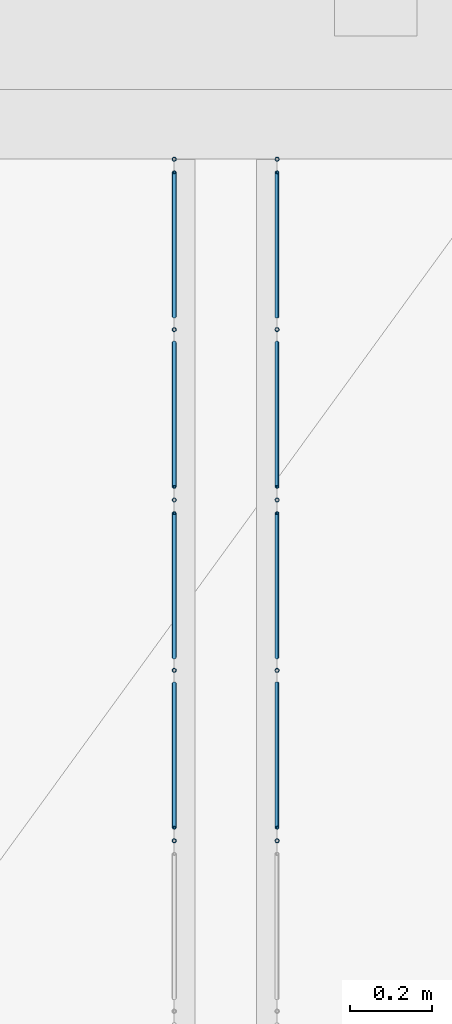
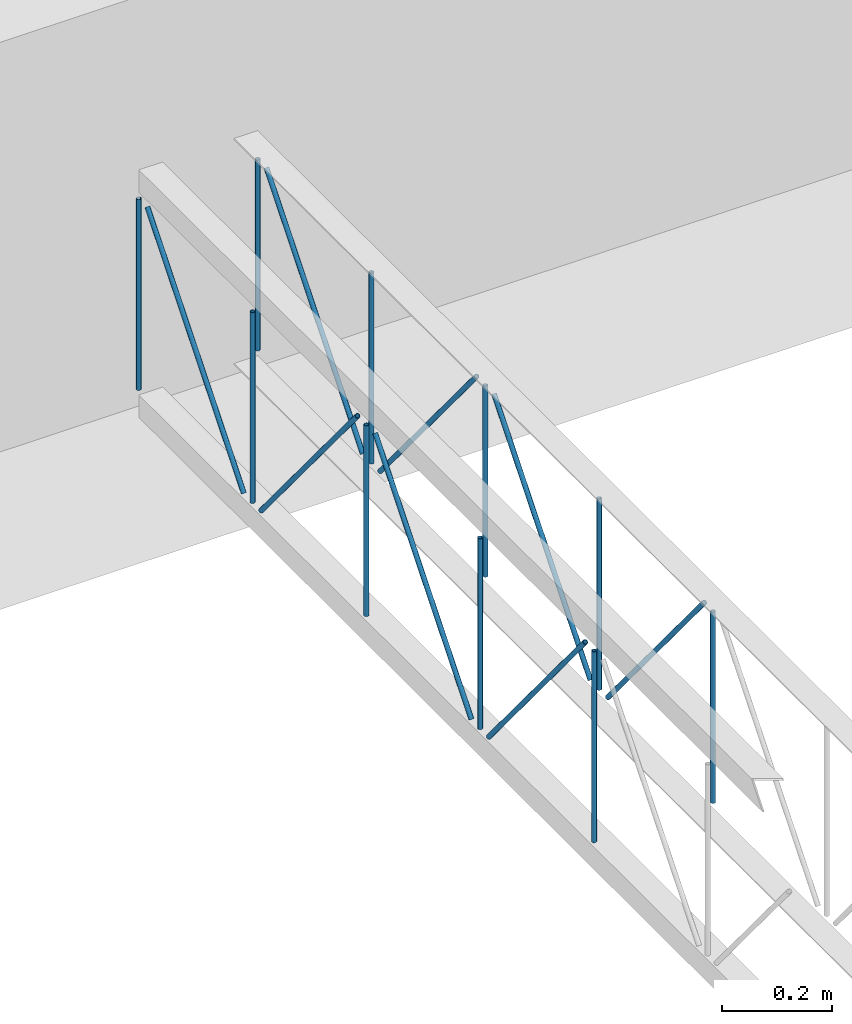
# One storey, part 31 of 153: 18 members, 2 elements without a shape of their own.
"""IFC4 building model written with IfcOpenShell, lengths in metres."""

from ifc_helpers import new_model, entity, si_unit, converted_unit, derived_unit, direction, frame, origin, place, context, subcontext, project, spatial, arc, indexed_curve, outline, extrude, source, transform, mapped, material, type_object, type_shapes, element, aggregate, save


model = new_model("IFC4")

# Units and contexts
model_context = context("Model", 3, precision=1e-05, world=origin(), true_north=direction((6.123031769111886e-17, 1.0)))
body_context = subcontext(model_context, "Body", "Model", "MODEL_VIEW")
ifc_project = project(units=[si_unit("LENGTHUNIT", "METRE"), si_unit("AREAUNIT", "SQUARE_METRE"), si_unit("VOLUMEUNIT", "CUBIC_METRE"), converted_unit("PLANEANGLEUNIT", "DEGREE", entity("IfcRatioMeasure", 0.017453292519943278), si_unit("PLANEANGLEUNIT", "RADIAN"), dimensions=[0, 0, 0, 0, 0, 0, 0]), si_unit("MASSUNIT", "GRAM", prefix="KILO"), derived_unit("MASSDENSITYUNIT", [(si_unit("MASSUNIT", "GRAM", prefix="KILO"), 1), (si_unit("LENGTHUNIT", "METRE"), -3)]), derived_unit("MOMENTOFINERTIAUNIT", [(si_unit("LENGTHUNIT", "METRE"), 4)]), si_unit("TIMEUNIT", "SECOND"), si_unit("FREQUENCYUNIT", "HERTZ"), si_unit("THERMODYNAMICTEMPERATUREUNIT", "DEGREE_CELSIUS"), derived_unit("THERMALTRANSMITTANCEUNIT", [(si_unit("MASSUNIT", "GRAM", prefix="KILO"), 1), (si_unit("THERMODYNAMICTEMPERATUREUNIT", "KELVIN"), -1), (si_unit("TIMEUNIT", "SECOND"), -3)]), derived_unit("VOLUMETRICFLOWRATEUNIT", [(si_unit("LENGTHUNIT", "METRE"), 3), (si_unit("TIMEUNIT", "SECOND"), -1)]), derived_unit("MASSFLOWRATEUNIT", [(si_unit("MASSUNIT", "GRAM", prefix="KILO"), 1), (si_unit("TIMEUNIT", "SECOND"), -1)]), derived_unit("ROTATIONALFREQUENCYUNIT", [(si_unit("TIMEUNIT", "SECOND"), -1)]), si_unit("ELECTRICCURRENTUNIT", "AMPERE"), si_unit("ELECTRICVOLTAGEUNIT", "VOLT"), si_unit("POWERUNIT", "WATT"), si_unit("FORCEUNIT", "NEWTON", prefix="KILO"), si_unit("ILLUMINANCEUNIT", "LUX"), si_unit("LUMINOUSFLUXUNIT", "LUMEN"), si_unit("LUMINOUSINTENSITYUNIT", "CANDELA"), derived_unit("USERDEFINED", [(si_unit("MASSUNIT", "GRAM", prefix="KILO"), -1), (si_unit("LENGTHUNIT", "METRE"), -2), (si_unit("TIMEUNIT", "SECOND"), 3), (si_unit("LUMINOUSFLUXUNIT", "LUMEN"), 1)]), derived_unit("SOUNDPOWERUNIT", [(si_unit("MASSUNIT", "GRAM", prefix="KILO"), 1), (si_unit("LENGTHUNIT", "METRE"), 2), (si_unit("TIMEUNIT", "SECOND"), -3)]), derived_unit("SOUNDPRESSUREUNIT", [(si_unit("MASSUNIT", "GRAM", prefix="KILO"), 1), (si_unit("LENGTHUNIT", "METRE"), -1), (si_unit("TIMEUNIT", "SECOND"), -2)]), derived_unit("LINEARVELOCITYUNIT", [(si_unit("LENGTHUNIT", "METRE"), 1), (si_unit("TIMEUNIT", "SECOND"), -1)]), si_unit("PRESSUREUNIT", "PASCAL"), derived_unit("USERDEFINED", [(si_unit("LENGTHUNIT", "METRE"), -2), (si_unit("MASSUNIT", "GRAM", prefix="KILO"), 1), (si_unit("TIMEUNIT", "SECOND"), -2)]), derived_unit("LINEARFORCEUNIT", [(si_unit("MASSUNIT", "GRAM", prefix="KILO"), 1), (si_unit("LENGTHUNIT", "METRE"), 1), (si_unit("TIMEUNIT", "SECOND"), -2), (si_unit("LENGTHUNIT", "METRE"), -1)]), derived_unit("PLANARFORCEUNIT", [(si_unit("MASSUNIT", "GRAM", prefix="KILO"), 1), (si_unit("LENGTHUNIT", "METRE"), 1), (si_unit("TIMEUNIT", "SECOND"), -2), (si_unit("LENGTHUNIT", "METRE"), -2)])], contexts=[model_context])

# Site, building, storey
site_placement = place(None, origin())
site = spatial("IfcSite", under=ifc_project, at=site_placement, Name="Superficie", CompositionType="ELEMENT")
building_placement = place(site_placement, origin())
building = spatial("IfcBuilding", under=site, at=building_placement, CompositionType="ELEMENT")
storey_placement = place(building_placement, frame((0.0, 0.0, 3.5999999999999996)))
storey = spatial("IfcBuildingStorey", under=building, at=storey_placement, Name="Nivel 1", CompositionType="ELEMENT", Elevation=3.5999999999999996)

# Assembly, members
assembly_1_placement = place(storey_placement, origin())
assembly_1 = element("IfcElementAssembly", 1, at=assembly_1_placement, inside=storey, Name="Viga de celosia 13:Viga de celosia 13", ObjectType="Viga de celosia 13:Viga de celosia 13", AssemblyPlace="NOTDEFINED", PredefinedType="TRUSS")
ifc_material = material(Name="Metal - Calibre delgado", Category="Metal")
member_type_1 = type_object("IfcMemberType", Name="HSS-Tubo estructural redondo:HSS 0.01", PredefinedType="BRACE", material=ifc_material)
shared_shape_1 = source(origin(), body_context, "Body", "SweptSolid", [
    extrude(outline(indexed_curve([(-0.005000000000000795, 7.502054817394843e-18), (-9.800269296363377e-18, -0.005000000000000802), (0.005000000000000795, -7.502054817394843e-18), (8.07772287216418e-18, 0.005000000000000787)], segments=[arc(1, 2, 3), arc(3, 4, 1)], self_intersect=False), holes=[indexed_curve([(0.003999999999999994, 7.222511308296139e-17), (6.910645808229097e-17, -0.004000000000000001), (-0.003999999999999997, -1.8650054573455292e-17), (-2.9156497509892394e-17, 0.003999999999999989)], segments=[arc(1, 2, 3), arc(3, 4, 1)], self_intersect=False)]), frame((-0.21200000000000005, 0.0, 0.0), z_axis=(1.0, 0.0, 0.0), x_axis=(0.0, 1.0, 0.0)), (0.0, 0.0, 1.0), 0.4240000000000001),
])
type_shapes(member_type_1, [shared_shape_1])
member_1_placement = place(assembly_1_placement, frame((-18.70320098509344, -4.990991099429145, 0.25), z_axis=(0.0, 1.0, 0.0), x_axis=(0.0, 0.0, 1.0)))
member_1 = element("IfcMember", 2, at=member_1_placement, type_object=member_type_1, material=ifc_material, Name="HSS-Tubo estructural redondo:HSS 0.01", ObjectType="HSS-Tubo estructural redondo:HSS 0.01", PredefinedType="BRACE", context=body_context, shape_type="MappedRepresentation", body=[
    mapped(shared_shape_1, transform((0.0, 0.0, 0.0), scale=1.0)),
])
member_2_placement = place(assembly_1_placement, frame((-18.70320098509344, -4.576645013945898, 0.25), z_axis=(0.0, 1.0, 0.0), x_axis=(0.0, 0.0, 1.0)))
member_2 = element("IfcMember", 3, at=member_2_placement, type_object=member_type_1, material=ifc_material, Name="HSS-Tubo estructural redondo:HSS 0.01", ObjectType="HSS-Tubo estructural redondo:HSS 0.01", PredefinedType="BRACE", context=body_context, shape_type="MappedRepresentation", body=[
    mapped(shared_shape_1, transform((0.0, 0.0, 0.0), scale=1.0)),
])
member_3_placement = place(assembly_1_placement, frame((-18.703200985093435, -4.162298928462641, 0.25), z_axis=(0.0, 1.0, 0.0), x_axis=(0.0, 0.0, 1.0)))
member_3 = element("IfcMember", 4, at=member_3_placement, type_object=member_type_1, material=ifc_material, Name="HSS-Tubo estructural redondo:HSS 0.01", ObjectType="HSS-Tubo estructural redondo:HSS 0.01", PredefinedType="BRACE", context=body_context, shape_type="MappedRepresentation", body=[
    mapped(shared_shape_1, transform((0.0, 0.0, 0.0), scale=1.0)),
])
member_4_placement = place(assembly_1_placement, frame((-18.703200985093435, -3.7479528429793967, 0.25), z_axis=(0.0, 1.0, 0.0), x_axis=(0.0, 0.0, 1.0)))
member_4 = element("IfcMember", 5, at=member_4_placement, type_object=member_type_1, material=ifc_material, Name="HSS-Tubo estructural redondo:HSS 0.01", ObjectType="HSS-Tubo estructural redondo:HSS 0.01", PredefinedType="BRACE", context=body_context, shape_type="MappedRepresentation", body=[
    mapped(shared_shape_1, transform((0.0, 0.0, 0.0), scale=1.0)),
])
member_5_placement = place(assembly_1_placement, frame((-18.703200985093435, -3.333606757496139, 0.25), z_axis=(0.0, 1.0, 0.0), x_axis=(0.0, 0.0, 1.0)))
member_5 = element("IfcMember", 6, at=member_5_placement, type_object=member_type_1, material=ifc_material, Name="HSS-Tubo estructural redondo:HSS 0.01", ObjectType="HSS-Tubo estructural redondo:HSS 0.01", PredefinedType="BRACE", context=body_context, shape_type="MappedRepresentation", body=[
    mapped(shared_shape_1, transform((0.0, 0.0, 0.0), scale=1.0)),
])
member_type_2 = type_object("IfcMemberType", Name="HSS-Tubo estructural redondo:HSS 0.01", PredefinedType="BRACE", material=ifc_material)
shared_shape_2 = source(origin(), body_context, "Body", "SweptSolid", [
    extrude(outline(indexed_curve([(-0.005000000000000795, 7.502054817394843e-18), (-9.800269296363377e-18, -0.005000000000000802), (0.005000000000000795, -7.502054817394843e-18), (8.07772287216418e-18, 0.005000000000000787)], segments=[arc(1, 2, 3), arc(3, 4, 1)], self_intersect=False), holes=[indexed_curve([(0.003999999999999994, 7.222511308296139e-17), (6.910645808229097e-17, -0.004000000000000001), (-0.003999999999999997, -1.8650054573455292e-17), (-2.9156497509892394e-17, 0.003999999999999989)], segments=[arc(1, 2, 3), arc(3, 4, 1)], self_intersect=False)]), frame((-0.275, 0.0, 0.0), z_axis=(1.0, 0.0, 0.0), x_axis=(0.0, 1.0, 0.0)), (0.0, 0.0, 1.0), 0.55),
])
type_shapes(member_type_2, [shared_shape_2])
member_6_placement = place(assembly_1_placement, frame((-18.70320098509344, -4.783818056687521, 0.25), z_axis=(0.0, -0.7699758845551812, -0.6380729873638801), x_axis=(0.0, 0.6380729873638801, -0.7699758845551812)))
member_6 = element("IfcMember", 7, at=member_6_placement, type_object=member_type_2, material=ifc_material, Name="HSS-Tubo estructural redondo:HSS 0.01", ObjectType="HSS-Tubo estructural redondo:HSS 0.01", PredefinedType="BRACE", context=body_context, shape_type="MappedRepresentation", body=[
    mapped(shared_shape_2, transform((0.0, 0.0, 0.0), scale=1.0)),
])
member_7_placement = place(assembly_1_placement, frame((-18.70320098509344, -4.36947197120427, 0.25), z_axis=(0.0, 0.7699758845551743, -0.6380729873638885), x_axis=(0.0, 0.6380729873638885, 0.7699758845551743)))
member_7 = element("IfcMember", 8, at=member_7_placement, type_object=member_type_2, material=ifc_material, Name="HSS-Tubo estructural redondo:HSS 0.01", ObjectType="HSS-Tubo estructural redondo:HSS 0.01", PredefinedType="BRACE", context=body_context, shape_type="MappedRepresentation", body=[
    mapped(shared_shape_2, transform((0.0, 0.0, 0.0), scale=1.0)),
])
member_8_placement = place(assembly_1_placement, frame((-18.703200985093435, -3.955125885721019, 0.24999999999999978), z_axis=(0.0, -0.7699758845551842, -0.6380729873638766), x_axis=(0.0, 0.6380729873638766, -0.7699758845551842)))
member_8 = element("IfcMember", 9, at=member_8_placement, type_object=member_type_2, material=ifc_material, Name="HSS-Tubo estructural redondo:HSS 0.01", ObjectType="HSS-Tubo estructural redondo:HSS 0.01", PredefinedType="BRACE", context=body_context, shape_type="MappedRepresentation", body=[
    mapped(shared_shape_2, transform((0.0, 0.0, 0.0), scale=1.0)),
])
member_9_placement = place(assembly_1_placement, frame((-18.703200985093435, -3.540779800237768, 0.25), z_axis=(0.0, 0.7699758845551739, -0.638072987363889), x_axis=(0.0, 0.638072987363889, 0.7699758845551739)))
member_9 = element("IfcMember", 10, at=member_9_placement, type_object=member_type_2, material=ifc_material, Name="HSS-Tubo estructural redondo:HSS 0.01", ObjectType="HSS-Tubo estructural redondo:HSS 0.01", PredefinedType="BRACE", context=body_context, shape_type="MappedRepresentation", body=[
    mapped(shared_shape_2, transform((0.0, 0.0, 0.0), scale=1.0)),
])
aggregate(assembly_1, [member_1, member_2, member_3, member_4, member_5, member_6, member_7, member_8, member_9])

assembly_2_placement = place(storey_placement, origin())
assembly_2 = element("IfcElementAssembly", 11, at=assembly_2_placement, inside=storey, Name="Viga de celosia 13:Viga de celosia 13", ObjectType="Viga de celosia 13:Viga de celosia 13", AssemblyPlace="NOTDEFINED", PredefinedType="TRUSS")
member_type_3 = type_object("IfcMemberType", Name="HSS-Tubo estructural redondo:HSS 0.01", PredefinedType="BRACE", material=ifc_material)
shared_shape_3 = source(origin(), body_context, "Body", "SweptSolid", [
    extrude(outline(indexed_curve([(-0.005000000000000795, 2.0824731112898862e-17), (-2.3122945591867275e-17, -0.005000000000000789), (0.005000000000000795, -2.08247311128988e-17), (2.14003991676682e-17, 0.005000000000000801)], segments=[arc(1, 2, 3), arc(3, 4, 1)], self_intersect=False), holes=[indexed_curve([(0.003999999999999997, -1.3094283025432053e-17), (-1.531427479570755e-18, -0.003999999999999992), (-0.004, 4.0098531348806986e-17), (4.1481388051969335e-17, 0.0039999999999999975)], segments=[arc(1, 2, 3), arc(3, 4, 1)], self_intersect=False)]), frame((-0.21200000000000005, 0.0, 0.0), z_axis=(1.0, 0.0, 0.0), x_axis=(0.0, -1.0, 0.0)), (0.0, 0.0, 1.0), 0.4240000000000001),
])
type_shapes(member_type_3, [shared_shape_3])
member_10_placement = place(assembly_2_placement, frame((-18.453200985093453, -4.990991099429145, 0.25), z_axis=(0.0, 1.0, 0.0), x_axis=(0.0, 0.0, 1.0)))
member_10 = element("IfcMember", 12, at=member_10_placement, type_object=member_type_3, material=ifc_material, Name="HSS-Tubo estructural redondo:HSS 0.01", ObjectType="HSS-Tubo estructural redondo:HSS 0.01", PredefinedType="BRACE", context=body_context, shape_type="MappedRepresentation", body=[
    mapped(shared_shape_3, transform((0.0, 0.0, 0.0), scale=1.0)),
])
member_11_placement = place(assembly_2_placement, frame((-18.453200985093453, -4.576645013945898, 0.25), z_axis=(0.0, 1.0, 0.0), x_axis=(0.0, 0.0, 1.0)))
member_11 = element("IfcMember", 13, at=member_11_placement, type_object=member_type_3, material=ifc_material, Name="HSS-Tubo estructural redondo:HSS 0.01", ObjectType="HSS-Tubo estructural redondo:HSS 0.01", PredefinedType="BRACE", context=body_context, shape_type="MappedRepresentation", body=[
    mapped(shared_shape_3, transform((0.0, 0.0, 0.0), scale=1.0)),
])
member_12_placement = place(assembly_2_placement, frame((-18.453200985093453, -4.162298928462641, 0.25), z_axis=(0.0, 1.0, 0.0), x_axis=(0.0, 0.0, 1.0)))
member_12 = element("IfcMember", 14, at=member_12_placement, type_object=member_type_3, material=ifc_material, Name="HSS-Tubo estructural redondo:HSS 0.01", ObjectType="HSS-Tubo estructural redondo:HSS 0.01", PredefinedType="BRACE", context=body_context, shape_type="MappedRepresentation", body=[
    mapped(shared_shape_3, transform((0.0, 0.0, 0.0), scale=1.0)),
])
member_13_placement = place(assembly_2_placement, frame((-18.453200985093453, -3.7479528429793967, 0.25), z_axis=(0.0, 1.0, 0.0), x_axis=(0.0, 0.0, 1.0)))
member_13 = element("IfcMember", 15, at=member_13_placement, type_object=member_type_3, material=ifc_material, Name="HSS-Tubo estructural redondo:HSS 0.01", ObjectType="HSS-Tubo estructural redondo:HSS 0.01", PredefinedType="BRACE", context=body_context, shape_type="MappedRepresentation", body=[
    mapped(shared_shape_3, transform((0.0, 0.0, 0.0), scale=1.0)),
])
member_14_placement = place(assembly_2_placement, frame((-18.453200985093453, -3.333606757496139, 0.25), z_axis=(0.0, 1.0, 0.0), x_axis=(0.0, 0.0, 1.0)))
member_14 = element("IfcMember", 16, at=member_14_placement, type_object=member_type_3, material=ifc_material, Name="HSS-Tubo estructural redondo:HSS 0.01", ObjectType="HSS-Tubo estructural redondo:HSS 0.01", PredefinedType="BRACE", context=body_context, shape_type="MappedRepresentation", body=[
    mapped(shared_shape_3, transform((0.0, 0.0, 0.0), scale=1.0)),
])
member_type_4 = type_object("IfcMemberType", Name="HSS-Tubo estructural redondo:HSS 0.01", PredefinedType="BRACE", material=ifc_material)
shared_shape_4 = source(origin(), body_context, "Body", "SweptSolid", [
    extrude(outline(indexed_curve([(-0.005000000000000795, 2.0824731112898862e-17), (-2.3122945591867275e-17, -0.005000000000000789), (0.005000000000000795, -2.08247311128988e-17), (2.14003991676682e-17, 0.005000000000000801)], segments=[arc(1, 2, 3), arc(3, 4, 1)], self_intersect=False), holes=[indexed_curve([(0.003999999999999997, -1.3094283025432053e-17), (-1.531427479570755e-18, -0.003999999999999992), (-0.004, 4.0098531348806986e-17), (4.1481388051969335e-17, 0.0039999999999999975)], segments=[arc(1, 2, 3), arc(3, 4, 1)], self_intersect=False)]), frame((-0.275, 0.0, 0.0), z_axis=(1.0, 0.0, 0.0), x_axis=(0.0, -1.0, 0.0)), (0.0, 0.0, 1.0), 0.55),
])
type_shapes(member_type_4, [shared_shape_4])
member_15_placement = place(assembly_2_placement, frame((-18.453200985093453, -4.783818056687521, 0.25), z_axis=(0.0, -0.7699758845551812, -0.6380729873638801), x_axis=(0.0, 0.6380729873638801, -0.7699758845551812)))
member_15 = element("IfcMember", 17, at=member_15_placement, type_object=member_type_4, material=ifc_material, Name="HSS-Tubo estructural redondo:HSS 0.01", ObjectType="HSS-Tubo estructural redondo:HSS 0.01", PredefinedType="BRACE", context=body_context, shape_type="MappedRepresentation", body=[
    mapped(shared_shape_4, transform((0.0, 0.0, 0.0), scale=1.0)),
])
member_16_placement = place(assembly_2_placement, frame((-18.453200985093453, -4.36947197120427, 0.25), z_axis=(0.0, 0.7699758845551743, -0.6380729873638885), x_axis=(0.0, 0.6380729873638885, 0.7699758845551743)))
member_16 = element("IfcMember", 18, at=member_16_placement, type_object=member_type_4, material=ifc_material, Name="HSS-Tubo estructural redondo:HSS 0.01", ObjectType="HSS-Tubo estructural redondo:HSS 0.01", PredefinedType="BRACE", context=body_context, shape_type="MappedRepresentation", body=[
    mapped(shared_shape_4, transform((0.0, 0.0, 0.0), scale=1.0)),
])
member_17_placement = place(assembly_2_placement, frame((-18.453200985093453, -3.955125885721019, 0.24999999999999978), z_axis=(0.0, -0.7699758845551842, -0.6380729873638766), x_axis=(0.0, 0.6380729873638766, -0.7699758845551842)))
member_17 = element("IfcMember", 19, at=member_17_placement, type_object=member_type_4, material=ifc_material, Name="HSS-Tubo estructural redondo:HSS 0.01", ObjectType="HSS-Tubo estructural redondo:HSS 0.01", PredefinedType="BRACE", context=body_context, shape_type="MappedRepresentation", body=[
    mapped(shared_shape_4, transform((0.0, 0.0, 0.0), scale=1.0)),
])
member_18_placement = place(assembly_2_placement, frame((-18.453200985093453, -3.540779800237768, 0.25), z_axis=(0.0, 0.7699758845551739, -0.638072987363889), x_axis=(0.0, 0.638072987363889, 0.7699758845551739)))
member_18 = element("IfcMember", 20, at=member_18_placement, type_object=member_type_4, material=ifc_material, Name="HSS-Tubo estructural redondo:HSS 0.01", ObjectType="HSS-Tubo estructural redondo:HSS 0.01", PredefinedType="BRACE", context=body_context, shape_type="MappedRepresentation", body=[
    mapped(shared_shape_4, transform((0.0, 0.0, 0.0), scale=1.0)),
])
aggregate(assembly_2, [member_10, member_11, member_12, member_13, member_14, member_15, member_16, member_17, member_18])

save(model, "model.ifc")
